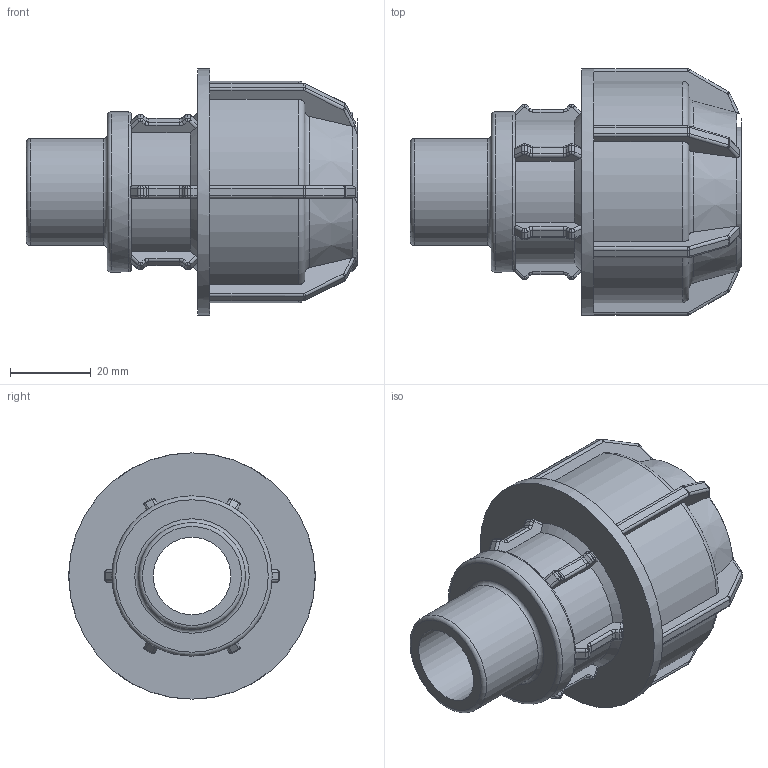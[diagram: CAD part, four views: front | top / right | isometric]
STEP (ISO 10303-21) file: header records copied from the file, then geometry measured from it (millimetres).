
FILE_DESCRIPTION(/* description */ ('PLASSON L. 14 MALE ADAPTOR (SILVER) 32-3/4'''''),/* implementation_level */ '2;1');
FILE_NAME(/* name */ 'C:\Dropbox\KIMPROJECTS-Inventor\99-16-3568-Processing\Silver+MF ISRAEL\140200\140200032007.ipt.stp',/* time_stamp */ '2018-04-09T13:02:43+03:00',/* author */ ('KIM'),/* organization */ (''),/* preprocessor_version */ 'ST-DEVELOPER v15.6',/* originating_system */ 'Autodesk Inventor 2015',/* authorisation */ '');
FILE_SCHEMA (('AUTOMOTIVE_DESIGN { 1 0 10303 214 3 1 1 }'));
Length unit declared in the file: millimetre
Products named in the file (1): 140200032007
Bounding box: 82 x 61 x 61 mm (x, y, z)
Volume: 66179.4 mm3; surface area: 25002.9 mm2
Topology: 1 solids, 1 shells, 470 faces, 1160 edges, 688 vertices
Faces by surface type: cylinder 186, plane 157, bspline 72, torus 42, cone 13
Full cylindrical faces by diameter (mm): 19.2 x1, 26.441 x1, 32 x2, 39.661 x1, 61 x1
Entity records: 14494 total; most frequent: CARTESIAN_POINT 3778, DIRECTION 2310, ORIENTED_EDGE 2252, EDGE_CURVE 1126, AXIS2_PLACEMENT_3D 930, VERTEX_POINT 676, CIRCLE 508, EDGE_LOOP 488
